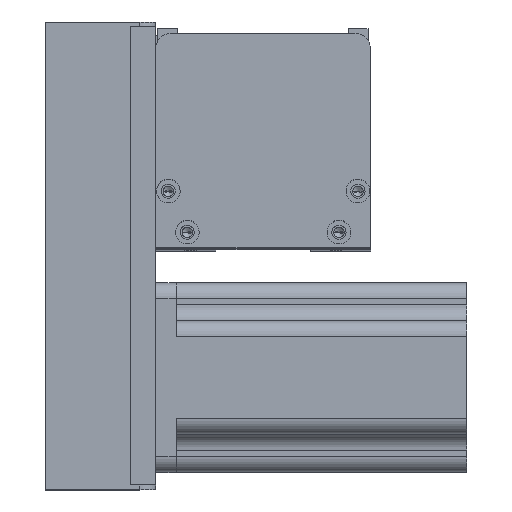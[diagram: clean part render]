
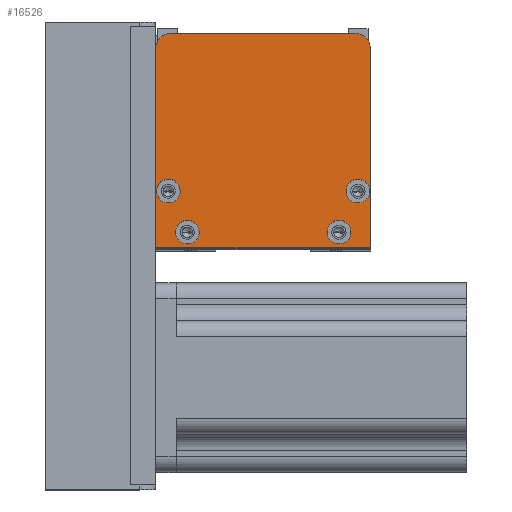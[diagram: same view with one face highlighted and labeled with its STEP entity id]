
A CAD part, top view. The second image highlights one B-rep face of the part: STEP entity #16526.
In plain terms, the highlighted planar face has unit normal (0, 0, 1) as drawn and (0, 0, -1) by its records, which use the part's own axes.
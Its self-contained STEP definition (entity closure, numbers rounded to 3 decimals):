
#12 = CARTESIAN_POINT ( 'NONE',  ( 61.75, 5., 0. ) ) ;
#203 = EDGE_CURVE ( 'NONE', #21502, #23273, #6537, .T. ) ;
#236 = EDGE_LOOP ( 'NONE', ( #24901, #342 ) ) ;
#342 = ORIENTED_EDGE ( 'NONE', *, *, #5107, .F. ) ;
#633 = DIRECTION ( 'NONE',  ( 0., 0., -1. ) ) ;
#715 = DIRECTION ( 'NONE',  ( 0., -1., 0. ) ) ;
#727 = CARTESIAN_POINT ( 'NONE',  ( 63., 63., 0. ) ) ;
#749 = AXIS2_PLACEMENT_3D ( 'NONE', #1180, #7217, #5296 ) ;
#876 = AXIS2_PLACEMENT_3D ( 'NONE', #727, #12212, #12050 ) ;
#907 = EDGE_LOOP ( 'NONE', ( #21785, #9725, #1722, #7570, #14243, #19545 ) ) ;
#1104 = VERTEX_POINT ( 'NONE', #12110 ) ;
#1117 = VERTEX_POINT ( 'NONE', #6488 ) ;
#1180 = CARTESIAN_POINT ( 'NONE',  ( 58., 5., 0. ) ) ;
#1189 = LINE ( 'NONE', #19718, #2073 ) ;
#1241 = CARTESIAN_POINT ( 'NONE',  ( 60.25, 18., 0. ) ) ;
#1324 = PLANE ( 'NONE',  #2966 ) ;
#1656 = EDGE_CURVE ( 'NONE', #7115, #23184, #20057, .T. ) ;
#1722 = ORIENTED_EDGE ( 'NONE', *, *, #13414, .F. ) ;
#1740 = CIRCLE ( 'NONE', #8502, 3.75 ) ;
#2073 = VECTOR ( 'NONE', #21673, 1000. ) ;
#2731 = VERTEX_POINT ( 'NONE', #3765 ) ;
#2810 = FACE_BOUND ( 'NONE', #236, .T. ) ;
#2840 = AXIS2_PLACEMENT_3D ( 'NONE', #13897, #8139, #21694 ) ;
#2859 = CARTESIAN_POINT ( 'NONE',  ( 13.75, 5., 0. ) ) ;
#2966 = AXIS2_PLACEMENT_3D ( 'NONE', #18689, #3570, #22599 ) ;
#2974 = AXIS2_PLACEMENT_3D ( 'NONE', #7297, #22624, #24818 ) ;
#3089 = LINE ( 'NONE', #24081, #9110 ) ;
#3113 = FACE_OUTER_BOUND ( 'NONE', #907, .T. ) ;
#3564 = CARTESIAN_POINT ( 'NONE',  ( 54.25, 5., 0. ) ) ;
#3570 = DIRECTION ( 'NONE',  ( 0., 0., 1. ) ) ;
#3765 = CARTESIAN_POINT ( 'NONE',  ( 67.75, 18., 0. ) ) ;
#4192 = LINE ( 'NONE', #19253, #18999 ) ;
#4224 = CARTESIAN_POINT ( 'NONE',  ( 58., 5., 0. ) ) ;
#4921 = EDGE_CURVE ( 'NONE', #18127, #11336, #22947, .T. ) ;
#5107 = EDGE_CURVE ( 'NONE', #2731, #20320, #12280, .T. ) ;
#5205 = VERTEX_POINT ( 'NONE', #13366 ) ;
#5231 = EDGE_CURVE ( 'NONE', #20320, #2731, #10466, .T. ) ;
#5296 = DIRECTION ( 'NONE',  ( -1., 0., 0. ) ) ;
#5541 = FACE_BOUND ( 'NONE', #21395, .T. ) ;
#5865 = DIRECTION ( 'NONE',  ( 0., 0., -1. ) ) ;
#6418 = VERTEX_POINT ( 'NONE', #23139 ) ;
#6488 = CARTESIAN_POINT ( 'NONE',  ( 68., 0., 0. ) ) ;
#6537 = CIRCLE ( 'NONE', #22854, 3.75 ) ;
#6709 = ORIENTED_EDGE ( 'NONE', *, *, #17547, .F. ) ;
#7115 = VERTEX_POINT ( 'NONE', #7656 ) ;
#7159 = EDGE_CURVE ( 'NONE', #1104, #5205, #16416, .T. ) ;
#7217 = DIRECTION ( 'NONE',  ( 0., 0., -1. ) ) ;
#7297 = CARTESIAN_POINT ( 'NONE',  ( 10., 5., 0. ) ) ;
#7323 = CIRCLE ( 'NONE', #18503, 3.75 ) ;
#7345 = ORIENTED_EDGE ( 'NONE', *, *, #203, .F. ) ;
#7444 = ORIENTED_EDGE ( 'NONE', *, *, #4921, .F. ) ;
#7570 = ORIENTED_EDGE ( 'NONE', *, *, #1656, .T. ) ;
#7656 = CARTESIAN_POINT ( 'NONE',  ( 63., 68., 0. ) ) ;
#7735 = DIRECTION ( 'NONE',  ( 0., 0., -1. ) ) ;
#8076 = DIRECTION ( 'NONE',  ( -1., 0., 0. ) ) ;
#8139 = DIRECTION ( 'NONE',  ( 0., 0., -1. ) ) ;
#8183 = DIRECTION ( 'NONE',  ( -1., 0., 0. ) ) ;
#8332 = EDGE_CURVE ( 'NONE', #1117, #23184, #18221, .T. ) ;
#8502 = AXIS2_PLACEMENT_3D ( 'NONE', #19782, #633, #8183 ) ;
#8900 = CIRCLE ( 'NONE', #749, 3.75 ) ;
#9110 = VECTOR ( 'NONE', #715, 1000. ) ;
#9316 = CARTESIAN_POINT ( 'NONE',  ( 0.25, 18., 0. ) ) ;
#9608 = DIRECTION ( 'NONE',  ( -1., 0., 0. ) ) ;
#9725 = ORIENTED_EDGE ( 'NONE', *, *, #7159, .T. ) ;
#9924 = ORIENTED_EDGE ( 'NONE', *, *, #16575, .F. ) ;
#10466 = CIRCLE ( 'NONE', #24873, 3.75 ) ;
#11336 = VERTEX_POINT ( 'NONE', #20288 ) ;
#11903 = VERTEX_POINT ( 'NONE', #23978 ) ;
#12050 = DIRECTION ( 'NONE',  ( 1., 0., 0. ) ) ;
#12110 = CARTESIAN_POINT ( 'NONE',  ( 0., 63., 0. ) ) ;
#12212 = DIRECTION ( 'NONE',  ( 0., 0., -1. ) ) ;
#12271 = EDGE_LOOP ( 'NONE', ( #15889, #9924 ) ) ;
#12280 = CIRCLE ( 'NONE', #12839, 3.75 ) ;
#12839 = AXIS2_PLACEMENT_3D ( 'NONE', #22526, #14970, #20667 ) ;
#12924 = CARTESIAN_POINT ( 'NONE',  ( 68., 63., 0. ) ) ;
#12962 = EDGE_CURVE ( 'NONE', #11903, #1117, #4192, .T. ) ;
#13351 = CARTESIAN_POINT ( 'NONE',  ( 4., 18., 0. ) ) ;
#13366 = CARTESIAN_POINT ( 'NONE',  ( 5., 68., 0. ) ) ;
#13414 = EDGE_CURVE ( 'NONE', #7115, #5205, #1189, .T. ) ;
#13430 = DIRECTION ( 'NONE',  ( 0., 1., 0. ) ) ;
#13702 = VECTOR ( 'NONE', #13430, 1000. ) ;
#13897 = CARTESIAN_POINT ( 'NONE',  ( 10., 5., 0. ) ) ;
#13982 = EDGE_CURVE ( 'NONE', #22709, #6418, #1740, .T. ) ;
#14243 = ORIENTED_EDGE ( 'NONE', *, *, #8332, .F. ) ;
#14970 = DIRECTION ( 'NONE',  ( 0., 0., -1. ) ) ;
#15560 = CARTESIAN_POINT ( 'NONE',  ( 5., 63., 0. ) ) ;
#15760 = FACE_BOUND ( 'NONE', #12271, .T. ) ;
#15889 = ORIENTED_EDGE ( 'NONE', *, *, #13982, .F. ) ;
#16416 = CIRCLE ( 'NONE', #21536, 5. ) ;
#16526 = ADVANCED_FACE ( 'NONE', ( #2810, #15760, #20048, #5541, #3113 ), #1324, .F. ) ;
#16575 = EDGE_CURVE ( 'NONE', #6418, #22709, #7323, .T. ) ;
#16822 = CIRCLE ( 'NONE', #2974, 3.75 ) ;
#16879 = EDGE_CURVE ( 'NONE', #1104, #11903, #3089, .T. ) ;
#17220 = DIRECTION ( 'NONE',  ( 1., 0., 0. ) ) ;
#17240 = CARTESIAN_POINT ( 'NONE',  ( 64., 18., 0. ) ) ;
#17385 = DIRECTION ( 'NONE',  ( 0., 0., -1. ) ) ;
#17547 = EDGE_CURVE ( 'NONE', #23273, #21502, #8900, .T. ) ;
#18127 = VERTEX_POINT ( 'NONE', #2859 ) ;
#18221 = LINE ( 'NONE', #21082, #13702 ) ;
#18503 = AXIS2_PLACEMENT_3D ( 'NONE', #13351, #17385, #9608 ) ;
#18689 = CARTESIAN_POINT ( 'NONE',  ( 0., 0., 0. ) ) ;
#18999 = VECTOR ( 'NONE', #17220, 1000. ) ;
#19253 = CARTESIAN_POINT ( 'NONE',  ( 68., 0., 0. ) ) ;
#19342 = ORIENTED_EDGE ( 'NONE', *, *, #22784, .F. ) ;
#19485 = DIRECTION ( 'NONE',  ( 1., 0., 0. ) ) ;
#19545 = ORIENTED_EDGE ( 'NONE', *, *, #12962, .F. ) ;
#19611 = EDGE_LOOP ( 'NONE', ( #19342, #7444 ) ) ;
#19683 = DIRECTION ( 'NONE',  ( 0., 0., -1. ) ) ;
#19718 = CARTESIAN_POINT ( 'NONE',  ( 68., 68., 0. ) ) ;
#19782 = CARTESIAN_POINT ( 'NONE',  ( 4., 18., 0. ) ) ;
#20048 = FACE_BOUND ( 'NONE', #19611, .T. ) ;
#20057 = CIRCLE ( 'NONE', #876, 5. ) ;
#20288 = CARTESIAN_POINT ( 'NONE',  ( 6.25, 5., 0. ) ) ;
#20320 = VERTEX_POINT ( 'NONE', #1241 ) ;
#20667 = DIRECTION ( 'NONE',  ( -1., 0., 0. ) ) ;
#21082 = CARTESIAN_POINT ( 'NONE',  ( 68., 0., 0. ) ) ;
#21395 = EDGE_LOOP ( 'NONE', ( #6709, #7345 ) ) ;
#21502 = VERTEX_POINT ( 'NONE', #12 ) ;
#21536 = AXIS2_PLACEMENT_3D ( 'NONE', #15560, #7735, #19485 ) ;
#21673 = DIRECTION ( 'NONE',  ( -1., 0., 0. ) ) ;
#21694 = DIRECTION ( 'NONE',  ( -1., 0., 0. ) ) ;
#21785 = ORIENTED_EDGE ( 'NONE', *, *, #16879, .F. ) ;
#22526 = CARTESIAN_POINT ( 'NONE',  ( 64., 18., 0. ) ) ;
#22599 = DIRECTION ( 'NONE',  ( 1., 0., 0. ) ) ;
#22624 = DIRECTION ( 'NONE',  ( 0., 0., -1. ) ) ;
#22709 = VERTEX_POINT ( 'NONE', #9316 ) ;
#22784 = EDGE_CURVE ( 'NONE', #11336, #18127, #16822, .T. ) ;
#22854 = AXIS2_PLACEMENT_3D ( 'NONE', #4224, #19683, #8076 ) ;
#22946 = DIRECTION ( 'NONE',  ( -1., 0., 0. ) ) ;
#22947 = CIRCLE ( 'NONE', #2840, 3.75 ) ;
#23139 = CARTESIAN_POINT ( 'NONE',  ( 7.75, 18., 0. ) ) ;
#23184 = VERTEX_POINT ( 'NONE', #12924 ) ;
#23273 = VERTEX_POINT ( 'NONE', #3564 ) ;
#23978 = CARTESIAN_POINT ( 'NONE',  ( 0., 0., 0. ) ) ;
#24081 = CARTESIAN_POINT ( 'NONE',  ( 0., 0., 0. ) ) ;
#24818 = DIRECTION ( 'NONE',  ( -1., 0., 0. ) ) ;
#24873 = AXIS2_PLACEMENT_3D ( 'NONE', #17240, #5865, #22946 ) ;
#24901 = ORIENTED_EDGE ( 'NONE', *, *, #5231, .F. ) ;
